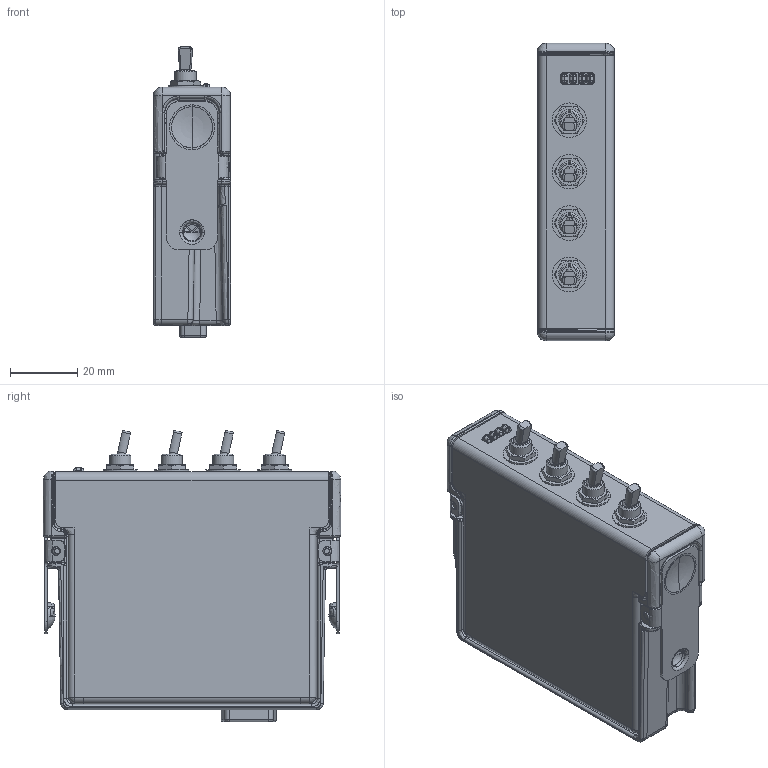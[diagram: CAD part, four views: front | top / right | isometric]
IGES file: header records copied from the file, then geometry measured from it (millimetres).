
Start section:  PTC IGES file: cu_ni-9344.igs
Global section: file name: cu_ni-9344.igs; native system: Creo Parametric by Parametric Technology Corporation; preprocessor: 2014000; author: dkendric; organization: Unknown; date: 20141203.160214; units: inch
Bounding box: 22.86 x 88.11 x 86.28 mm (x, y, z)
Surface area: 47818.7 mm2 (no closed solid volume)
Topology: 0 solids, 0 shells, 1954 faces, 9386 edges, 9314 vertices
Faces by surface type: bspline 1099, revolution 849, extrusion 6
